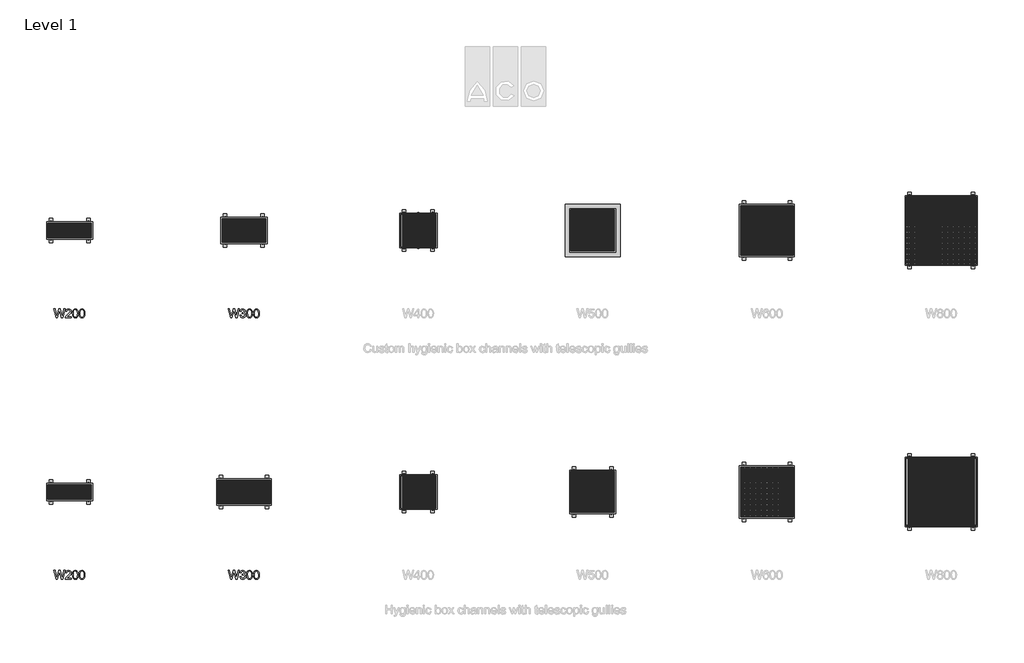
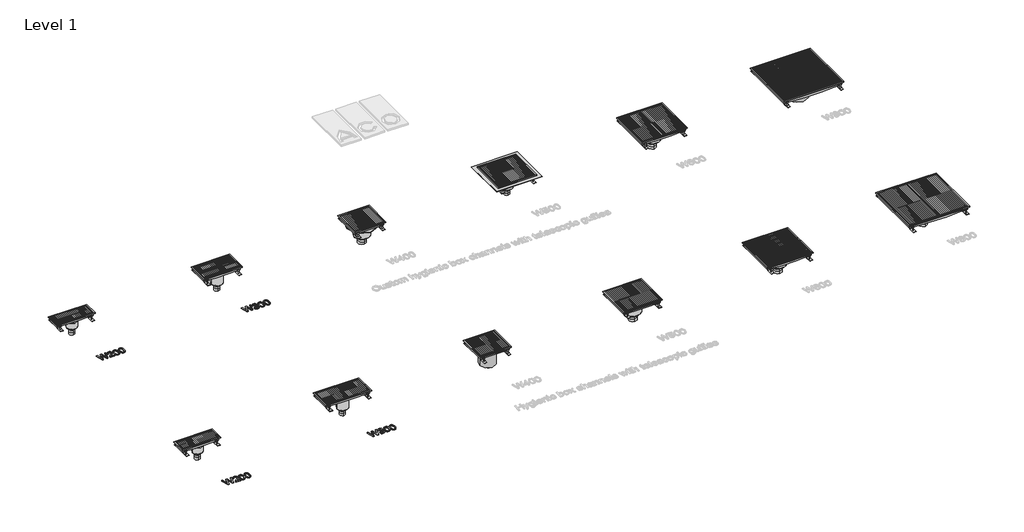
# One storey, part 1 of 4: 41 sanitary terminals, 4 proxies, 2 dampers.
"""IFC4 building model written with IfcOpenShell, lengths in millimetres."""

from ifc_helpers import new_model, si_unit, origin, origin_with_axes, place, context, project, spatial, polyline, outline, extrude, transform, mapped, element, save
from components import std_nested_2a3f0441, std_nested_5fa89a83, std_nested_e3c334fa, std_nested_92ae71c6, std_nested_1bb88c5a, std_nested_4aa36dc4, std_nested_bf99f5a6, std_nested_4a2af299, std_nested_70ec9771, std_nested_70838659, std_nested_12b8dc3f, std_nested_4702d8b9, std_nested_b8717db3, std_nested_fb4eed41, std_nested_d116548a, std_nested_70892438, std_nested_124cadb5, std_nested_95b3bbc4, std_nested_a716071c, std_nested_4be5dc4f, std_nested_37ddd1c3, std_nested_673e6eb0, std_nested_0e9dc0d2, std_nested_275415f7, std_nested_ce3d31c5

model = new_model("IFC4")

# Units and contexts
model_context = context("Model", 3, world=origin())
ifc_project = project(units=[si_unit("LENGTHUNIT", "METRE", prefix="MILLI")], contexts=[model_context])

# Site, building, storey
site = spatial("IfcSite", under=ifc_project)
building = spatial("IfcBuilding", under=site)
storey = spatial("IfcBuildingStorey", under=building, Name="Level 1", Elevation=0.0)

# Proxies
placement = place(None, origin())
element("IfcBuildingElementProxy", 1, Name="100mm ACO", ObjectType="100mm ACO", at=placement, inside=storey, context=model_context, shape_type="SweptSolid", body=[
    extrude(outline(polyline([(-4051.8518519, -6700.0), (-4078.0092593, -6800.0), (-4093.8657407, -6800.0), (-4113.744213, -6721.1516204), (-4115.7407407, -6711.9502315), (-4118.75, -6723.8136574), (-4139.6990741, -6800.0), (-4153.587963, -6800.0), (-4179.6296296, -6700.0), (-4166.3194444, -6700.0), (-4151.1863426, -6765.6828704), (-4147.3668981, -6784.6643519), (-4142.7083333, -6767.505787), (-4123.8425926, -6700.0), (-4107.494213, -6700.0), (-4093.8078704, -6750.6076389), (-4086.3715278, -6786.1111111), (-4081.25, -6764.3229167), (-4065.2199074, -6700.0), (-4051.8518519, -6700.0)])), origin_with_axes(), (0.0, 0.0, 1.0), 10.0),
    extrude(outline(polyline([(-3981.4814815, -6800.0), (-4048.1481481, -6800.0), (-4042.1875, -6784.4039352), (-4020.1678241, -6762.7893519), (-4002.4016204, -6745.4571759), (-3996.4337384, -6736.4293981), (-3994.4444444, -6727.34375), (-3999.8697917, -6714.380787), (-4013.5706019, -6709.2592593), (-4027.6041667, -6714.3663194), (-4031.8721065, -6720.7356771), (-4033.3333333, -6729.6296296), (-4046.2962963, -6728.2407407), (-4043.1568287, -6716.1385995), (-4036.1111111, -6707.2627315), (-4025.8969907, -6701.8156829), (-4013.2523148, -6700.0), (-3999.89511, -6702.0869502), (-3989.8582176, -6708.3478009), (-3983.5756655, -6717.5600405), (-3981.4814815, -6728.5011574), (-3983.2320602, -6738.4042245), (-3988.4837963, -6748.4375), (-4015.9143519, -6775.9548611), (-4031.4814815, -6790.7407407), (-3981.4814815, -6790.7407407), (-3981.4814815, -6800.0)])), origin_with_axes(), (0.0, 0.0, 1.0), 10.0),
    extrude(outline(polyline([(-3935.2141204, -6700.0), (-3920.6181279, -6703.1864873), (-3910.192419, -6712.7459491), (-3903.9369936, -6728.6783854), (-3901.8518519, -6750.9837963), (-3904.0075231, -6773.4555845), (-3910.474537, -6789.3084491), (-3920.9707755, -6798.7160012), (-3935.2141204, -6801.8518519), (-3949.7847946, -6798.6725984), (-3960.192419, -6789.134838), (-3966.4369936, -6773.2385706), (-3968.5185185, -6750.9837963), (-3966.3628472, -6728.515625), (-3959.8958333, -6712.6157407), (-3949.4140625, -6703.1539352), (-3935.2141204, -6700.0)]), holes=[polyline([(-3935.1851852, -6792.5925926), (-3926.3454861, -6790.1584201), (-3919.9652778, -6782.8559028), (-3916.1024306, -6770.0195312), (-3914.8148148, -6750.9837963), (-3917.0717593, -6726.7650463), (-3923.8859954, -6713.599537), (-3935.3298611, -6709.2592593), (-3944.1514757, -6711.7368345), (-3950.4774306, -6719.1695602), (-3954.2860243, -6732.0782697), (-3955.5555556, -6750.9837963), (-3953.2552083, -6775.0434028), (-3946.4409722, -6788.2523148), (-3935.1851852, -6792.5925926)])]), origin_with_axes(), (0.0, 0.0, 1.0), 10.0),
    extrude(outline(polyline([(-3857.4363426, -6700.0), (-3842.8403501, -6703.1864873), (-3832.4146412, -6712.7459491), (-3826.1592159, -6728.6783854), (-3824.0740741, -6750.9837963), (-3826.2297454, -6773.4555845), (-3832.6967593, -6789.3084491), (-3843.1929977, -6798.7160012), (-3857.4363426, -6801.8518519), (-3872.0070168, -6798.6725984), (-3882.4146412, -6789.134838), (-3888.6592159, -6773.2385706), (-3890.7407407, -6750.9837963), (-3888.5850694, -6728.515625), (-3882.1180556, -6712.6157407), (-3871.6362847, -6703.1539352), (-3857.4363426, -6700.0)]), holes=[polyline([(-3857.4074074, -6792.5925926), (-3848.5677083, -6790.1584201), (-3842.1875, -6782.8559028), (-3838.3246528, -6770.0195312), (-3837.037037, -6750.9837963), (-3839.2939815, -6726.7650463), (-3846.1082176, -6713.599537), (-3857.5520833, -6709.2592593), (-3866.3736979, -6711.7368345), (-3872.6996528, -6719.1695602), (-3876.5082465, -6732.0782697), (-3877.7777778, -6750.9837963), (-3875.4774306, -6775.0434028), (-3868.6631944, -6788.2523148), (-3857.4074074, -6792.5925926)])]), origin_with_axes(), (0.0, 0.0, 1.0), 10.0),
])
element("IfcBuildingElementProxy", 2, Name="100mm ACO", ObjectType="100mm ACO", at=placement, inside=storey, context=model_context, shape_type="SweptSolid", body=[
    extrude(outline(polyline([(-2051.8518519, -6700.0), (-2078.0092593, -6800.0), (-2093.8657407, -6800.0), (-2113.744213, -6721.1516204), (-2115.7407407, -6711.9502315), (-2118.75, -6723.8136574), (-2139.6990741, -6800.0), (-2153.587963, -6800.0), (-2179.6296296, -6700.0), (-2166.3194444, -6700.0), (-2151.1863426, -6765.6828704), (-2147.3668981, -6784.6643519), (-2142.7083333, -6767.505787), (-2123.8425926, -6700.0), (-2107.494213, -6700.0), (-2093.8078704, -6750.6076389), (-2086.3715278, -6786.1111111), (-2081.25, -6764.3229167), (-2065.2199074, -6700.0), (-2051.8518519, -6700.0)])), origin_with_axes(), (0.0, 0.0, 1.0), 10.0),
    extrude(outline(polyline([(-1998.8136574, -6746.3975694), (-1990.483941, -6749.6346933), (-1984.4762731, -6755.4253472), (-1979.6296296, -6770.9490741), (-1982.1542245, -6783.2573785), (-1989.7280093, -6793.1568287), (-2000.817419, -6799.6780961), (-2013.8888889, -6801.8518519), (-2026.1682581, -6799.9348958), (-2036.0966435, -6794.1840278), (-2043.0230035, -6785.2864583), (-2046.2962963, -6773.9293981), (-2033.3333333, -6772.2222222), (-2026.5046296, -6787.5144676), (-2013.4548611, -6792.5925926), (-2005.3855613, -6791.0662616), (-1998.6545139, -6786.4872685), (-1994.1080729, -6779.6947338), (-1992.5925926, -6771.5277778), (-1994.0140336, -6763.7695312), (-1998.2783565, -6757.4508102), (-2004.8357928, -6753.2515914), (-2013.1365741, -6751.8518519), (-2022.2222222, -6753.7037037), (-2020.775463, -6742.5925926), (-2012.9050926, -6742.1006944), (-2006.4236111, -6739.6990741), (-2000.4918981, -6734.2303241), (-1998.1481481, -6725.4050926), (-2002.9369213, -6713.4837963), (-2014.0335648, -6709.2592593), (-2025.7667824, -6714.0625), (-2031.4814815, -6727.7777778), (-2044.4444444, -6725.5497685), (-2040.6069155, -6714.3627025), (-2033.8975694, -6706.3802083), (-2024.9529803, -6701.5950521), (-2014.4097222, -6700.0), (-2002.9441551, -6701.8916377), (-1993.5474537, -6707.5665509), (-1987.2757523, -6715.9758391), (-1985.1851852, -6726.0706019), (-1988.5923032, -6738.1365741), (-1998.8136574, -6746.3975694)])), origin_with_axes(), (0.0, 0.0, 1.0), 10.0),
    extrude(outline(polyline([(-1935.2141204, -6700.0), (-1920.6181279, -6703.1864873), (-1910.192419, -6712.7459491), (-1903.9369936, -6728.6783854), (-1901.8518519, -6750.9837963), (-1904.0075231, -6773.4555845), (-1910.474537, -6789.3084491), (-1920.9707755, -6798.7160012), (-1935.2141204, -6801.8518519), (-1949.7847946, -6798.6725984), (-1960.192419, -6789.134838), (-1966.4369936, -6773.2385706), (-1968.5185185, -6750.9837963), (-1966.3628472, -6728.515625), (-1959.8958333, -6712.6157407), (-1949.4140625, -6703.1539352), (-1935.2141204, -6700.0)]), holes=[polyline([(-1935.1851852, -6792.5925926), (-1926.3454861, -6790.1584201), (-1919.9652778, -6782.8559028), (-1916.1024306, -6770.0195312), (-1914.8148148, -6750.9837963), (-1917.0717593, -6726.7650463), (-1923.8859954, -6713.599537), (-1935.3298611, -6709.2592593), (-1944.1514757, -6711.7368345), (-1950.4774306, -6719.1695602), (-1954.2860243, -6732.0782697), (-1955.5555556, -6750.9837963), (-1953.2552083, -6775.0434028), (-1946.4409722, -6788.2523148), (-1935.1851852, -6792.5925926)])]), origin_with_axes(), (0.0, 0.0, 1.0), 10.0),
    extrude(outline(polyline([(-1857.4363426, -6700.0), (-1842.8403501, -6703.1864873), (-1832.4146412, -6712.7459491), (-1826.1592159, -6728.6783854), (-1824.0740741, -6750.9837963), (-1826.2297454, -6773.4555845), (-1832.6967593, -6789.3084491), (-1843.1929977, -6798.7160012), (-1857.4363426, -6801.8518519), (-1872.0070168, -6798.6725984), (-1882.4146412, -6789.134838), (-1888.6592159, -6773.2385706), (-1890.7407407, -6750.9837963), (-1888.5850694, -6728.515625), (-1882.1180556, -6712.6157407), (-1871.6362847, -6703.1539352), (-1857.4363426, -6700.0)]), holes=[polyline([(-1857.4074074, -6792.5925926), (-1848.5677083, -6790.1584201), (-1842.1875, -6782.8559028), (-1838.3246528, -6770.0195312), (-1837.037037, -6750.9837963), (-1839.2939815, -6726.7650463), (-1846.1082176, -6713.599537), (-1857.5520833, -6709.2592593), (-1866.3736979, -6711.7368345), (-1872.6996528, -6719.1695602), (-1876.5082465, -6732.0782697), (-1877.7777778, -6750.9837963), (-1875.4774306, -6775.0434028), (-1868.6631944, -6788.2523148), (-1857.4074074, -6792.5925926)])]), origin_with_axes(), (0.0, 0.0, 1.0), 10.0),
])
element("IfcBuildingElementProxy", 3, Name="100mm ACO", ObjectType="100mm ACO", at=placement, inside=storey, context=model_context, shape_type="SweptSolid", body=[
    extrude(outline(polyline([(-4051.8518519, -3700.0), (-4078.0092593, -3800.0), (-4093.8657407, -3800.0), (-4113.744213, -3721.1516204), (-4115.7407407, -3711.9502315), (-4118.75, -3723.8136574), (-4139.6990741, -3800.0), (-4153.587963, -3800.0), (-4179.6296296, -3700.0), (-4166.3194444, -3700.0), (-4151.1863426, -3765.6828704), (-4147.3668981, -3784.6643519), (-4142.7083333, -3767.505787), (-4123.8425926, -3700.0), (-4107.494213, -3700.0), (-4093.8078704, -3750.6076389), (-4086.3715278, -3786.1111111), (-4081.25, -3764.3229167), (-4065.2199074, -3700.0), (-4051.8518519, -3700.0)])), origin_with_axes(), (0.0, 0.0, 1.0), 10.0),
    extrude(outline(polyline([(-3981.4814815, -3800.0), (-4048.1481481, -3800.0), (-4042.1875, -3784.4039352), (-4020.1678241, -3762.7893519), (-4002.4016204, -3745.4571759), (-3996.4337384, -3736.4293981), (-3994.4444444, -3727.34375), (-3999.8697917, -3714.380787), (-4013.5706019, -3709.2592593), (-4027.6041667, -3714.3663194), (-4031.8721065, -3720.7356771), (-4033.3333333, -3729.6296296), (-4046.2962963, -3728.2407407), (-4043.1568287, -3716.1385995), (-4036.1111111, -3707.2627315), (-4025.8969907, -3701.8156829), (-4013.2523148, -3700.0), (-3999.89511, -3702.0869502), (-3989.8582176, -3708.3478009), (-3983.5756655, -3717.5600405), (-3981.4814815, -3728.5011574), (-3983.2320602, -3738.4042245), (-3988.4837963, -3748.4375), (-4015.9143519, -3775.9548611), (-4031.4814815, -3790.7407407), (-3981.4814815, -3790.7407407), (-3981.4814815, -3800.0)])), origin_with_axes(), (0.0, 0.0, 1.0), 10.0),
    extrude(outline(polyline([(-3935.2141204, -3700.0), (-3920.6181279, -3703.1864873), (-3910.192419, -3712.7459491), (-3903.9369936, -3728.6783854), (-3901.8518519, -3750.9837963), (-3904.0075231, -3773.4555845), (-3910.474537, -3789.3084491), (-3920.9707755, -3798.7160012), (-3935.2141204, -3801.8518519), (-3949.7847946, -3798.6725984), (-3960.192419, -3789.134838), (-3966.4369936, -3773.2385706), (-3968.5185185, -3750.9837963), (-3966.3628472, -3728.515625), (-3959.8958333, -3712.6157407), (-3949.4140625, -3703.1539352), (-3935.2141204, -3700.0)]), holes=[polyline([(-3935.1851852, -3792.5925926), (-3926.3454861, -3790.1584201), (-3919.9652778, -3782.8559028), (-3916.1024306, -3770.0195312), (-3914.8148148, -3750.9837963), (-3917.0717593, -3726.7650463), (-3923.8859954, -3713.599537), (-3935.3298611, -3709.2592593), (-3944.1514757, -3711.7368345), (-3950.4774306, -3719.1695602), (-3954.2860243, -3732.0782697), (-3955.5555556, -3750.9837963), (-3953.2552083, -3775.0434028), (-3946.4409722, -3788.2523148), (-3935.1851852, -3792.5925926)])]), origin_with_axes(), (0.0, 0.0, 1.0), 10.0),
    extrude(outline(polyline([(-3857.4363426, -3700.0), (-3842.8403501, -3703.1864873), (-3832.4146412, -3712.7459491), (-3826.1592159, -3728.6783854), (-3824.0740741, -3750.9837963), (-3826.2297454, -3773.4555845), (-3832.6967593, -3789.3084491), (-3843.1929977, -3798.7160012), (-3857.4363426, -3801.8518519), (-3872.0070168, -3798.6725984), (-3882.4146412, -3789.134838), (-3888.6592159, -3773.2385706), (-3890.7407407, -3750.9837963), (-3888.5850694, -3728.515625), (-3882.1180556, -3712.6157407), (-3871.6362847, -3703.1539352), (-3857.4363426, -3700.0)]), holes=[polyline([(-3857.4074074, -3792.5925926), (-3848.5677083, -3790.1584201), (-3842.1875, -3782.8559028), (-3838.3246528, -3770.0195312), (-3837.037037, -3750.9837963), (-3839.2939815, -3726.7650463), (-3846.1082176, -3713.599537), (-3857.5520833, -3709.2592593), (-3866.3736979, -3711.7368345), (-3872.6996528, -3719.1695602), (-3876.5082465, -3732.0782697), (-3877.7777778, -3750.9837963), (-3875.4774306, -3775.0434028), (-3868.6631944, -3788.2523148), (-3857.4074074, -3792.5925926)])]), origin_with_axes(), (0.0, 0.0, 1.0), 10.0),
])
element("IfcBuildingElementProxy", 4, Name="100mm ACO", ObjectType="100mm ACO", at=placement, inside=storey, context=model_context, shape_type="SweptSolid", body=[
    extrude(outline(polyline([(-2051.8518519, -3700.0), (-2078.0092593, -3800.0), (-2093.8657407, -3800.0), (-2113.744213, -3721.1516204), (-2115.7407407, -3711.9502315), (-2118.75, -3723.8136574), (-2139.6990741, -3800.0), (-2153.587963, -3800.0), (-2179.6296296, -3700.0), (-2166.3194444, -3700.0), (-2151.1863426, -3765.6828704), (-2147.3668981, -3784.6643519), (-2142.7083333, -3767.505787), (-2123.8425926, -3700.0), (-2107.494213, -3700.0), (-2093.8078704, -3750.6076389), (-2086.3715278, -3786.1111111), (-2081.25, -3764.3229167), (-2065.2199074, -3700.0), (-2051.8518519, -3700.0)])), origin_with_axes(), (0.0, 0.0, 1.0), 10.0),
    extrude(outline(polyline([(-1998.8136574, -3746.3975694), (-1990.483941, -3749.6346933), (-1984.4762731, -3755.4253472), (-1979.6296296, -3770.9490741), (-1982.1542245, -3783.2573785), (-1989.7280093, -3793.1568287), (-2000.817419, -3799.6780961), (-2013.8888889, -3801.8518519), (-2026.1682581, -3799.9348958), (-2036.0966435, -3794.1840278), (-2043.0230035, -3785.2864583), (-2046.2962963, -3773.9293981), (-2033.3333333, -3772.2222222), (-2026.5046296, -3787.5144676), (-2013.4548611, -3792.5925926), (-2005.3855613, -3791.0662616), (-1998.6545139, -3786.4872685), (-1994.1080729, -3779.6947338), (-1992.5925926, -3771.5277778), (-1994.0140336, -3763.7695312), (-1998.2783565, -3757.4508102), (-2004.8357928, -3753.2515914), (-2013.1365741, -3751.8518519), (-2022.2222222, -3753.7037037), (-2020.775463, -3742.5925926), (-2012.9050926, -3742.1006944), (-2006.4236111, -3739.6990741), (-2000.4918981, -3734.2303241), (-1998.1481481, -3725.4050926), (-2002.9369213, -3713.4837963), (-2014.0335648, -3709.2592593), (-2025.7667824, -3714.0625), (-2031.4814815, -3727.7777778), (-2044.4444444, -3725.5497685), (-2040.6069155, -3714.3627025), (-2033.8975694, -3706.3802083), (-2024.9529803, -3701.5950521), (-2014.4097222, -3700.0), (-2002.9441551, -3701.8916377), (-1993.5474537, -3707.5665509), (-1987.2757523, -3715.9758391), (-1985.1851852, -3726.0706019), (-1988.5923032, -3738.1365741), (-1998.8136574, -3746.3975694)])), origin_with_axes(), (0.0, 0.0, 1.0), 10.0),
    extrude(outline(polyline([(-1935.2141204, -3700.0), (-1920.6181279, -3703.1864873), (-1910.192419, -3712.7459491), (-1903.9369936, -3728.6783854), (-1901.8518519, -3750.9837963), (-1904.0075231, -3773.4555845), (-1910.474537, -3789.3084491), (-1920.9707755, -3798.7160012), (-1935.2141204, -3801.8518519), (-1949.7847946, -3798.6725984), (-1960.192419, -3789.134838), (-1966.4369936, -3773.2385706), (-1968.5185185, -3750.9837963), (-1966.3628472, -3728.515625), (-1959.8958333, -3712.6157407), (-1949.4140625, -3703.1539352), (-1935.2141204, -3700.0)]), holes=[polyline([(-1935.1851852, -3792.5925926), (-1926.3454861, -3790.1584201), (-1919.9652778, -3782.8559028), (-1916.1024306, -3770.0195312), (-1914.8148148, -3750.9837963), (-1917.0717593, -3726.7650463), (-1923.8859954, -3713.599537), (-1935.3298611, -3709.2592593), (-1944.1514757, -3711.7368345), (-1950.4774306, -3719.1695602), (-1954.2860243, -3732.0782697), (-1955.5555556, -3750.9837963), (-1953.2552083, -3775.0434028), (-1946.4409722, -3788.2523148), (-1935.1851852, -3792.5925926)])]), origin_with_axes(), (0.0, 0.0, 1.0), 10.0),
    extrude(outline(polyline([(-1857.4363426, -3700.0), (-1842.8403501, -3703.1864873), (-1832.4146412, -3712.7459491), (-1826.1592159, -3728.6783854), (-1824.0740741, -3750.9837963), (-1826.2297454, -3773.4555845), (-1832.6967593, -3789.3084491), (-1843.1929977, -3798.7160012), (-1857.4363426, -3801.8518519), (-1872.0070168, -3798.6725984), (-1882.4146412, -3789.134838), (-1888.6592159, -3773.2385706), (-1890.7407407, -3750.9837963), (-1888.5850694, -3728.515625), (-1882.1180556, -3712.6157407), (-1871.6362847, -3703.1539352), (-1857.4363426, -3700.0)]), holes=[polyline([(-1857.4074074, -3792.5925926), (-1848.5677083, -3790.1584201), (-1842.1875, -3782.8559028), (-1838.3246528, -3770.0195312), (-1837.037037, -3750.9837963), (-1839.2939815, -3726.7650463), (-1846.1082176, -3713.599537), (-1857.5520833, -3709.2592593), (-1866.3736979, -3711.7368345), (-1872.6996528, -3719.1695602), (-1876.5082465, -3732.0782697), (-1877.7777778, -3750.9837963), (-1875.4774306, -3775.0434028), (-1868.6631944, -3788.2523148), (-1857.4074074, -3792.5925926)])]), origin_with_axes(), (0.0, 0.0, 1.0), 10.0),
])

# Dampers
std_nested_shape = std_nested_2a3f0441(model_context)
element("IfcDamper", 5, ObjectType="ZZZ_do_not_use_PIA_GEN_UN_fire resistant kit for hygienic gullies_ACO : std (nested)", at=placement, inside=storey, context=model_context, shape_type="MappedRepresentation", body=[
    mapped(std_nested_shape, transform((6000.0, -2800.0, -91.0), x_axis=(-1.0, 0.0, 0.0), y_axis=(0.0, -1.0, 0.0), z_axis=(0.0, 0.0, 1.0))),
])
std_nested_2_shape = std_nested_5fa89a83(model_context)
element("IfcDamper", 6, ObjectType="ZZZ_do_not_use_PIA_GEN_UN_fire resistant kit for hygienic gullies_ACO : std (nested)", at=placement, inside=storey, context=model_context, shape_type="MappedRepresentation", body=[
    mapped(std_nested_2_shape, transform((0.0, -5800.0, -71.0), x_axis=(-1.0, 0.0, 0.0), y_axis=(0.0, -1.0, 0.0), z_axis=(0.0, 0.0, 1.0))),
])

# Sanitary terminals
std_nested_3_shape = std_nested_e3c334fa(model_context)
element("IfcSanitaryTerminal", 7, ObjectType="ZZZ_do not use_PF_ST_UN_hygienic box channel_ACO : std (nested)", at=placement, inside=storey, context=model_context, shape_type="MappedRepresentation", body=[
    mapped(std_nested_3_shape, transform((-4000.0, -5800.0, 0.0), x_axis=(1.0, 0.0, 0.0), y_axis=(0.0, 1.0, 0.0), z_axis=(0.0, 0.0, 1.0))),
])
std_nested_4_shape = std_nested_92ae71c6(model_context)
element("IfcSanitaryTerminal", 8, ObjectType="ZZZ_do not use_PF_ST_UN_hygienic box channel_ACO : std (nested)", at=placement, inside=storey, context=model_context, shape_type="MappedRepresentation", body=[
    mapped(std_nested_4_shape, transform((0.0, -5800.0, 0.0), x_axis=(1.0, 0.0, 0.0), y_axis=(0.0, 1.0, 0.0), z_axis=(0.0, 0.0, 1.0))),
])
std_nested_5_shape = std_nested_1bb88c5a(model_context)
element("IfcSanitaryTerminal", 9, ObjectType="ZZZ_do not use_PF_ST_UN_hygienic box channel_ACO : std (nested)", at=placement, inside=storey, context=model_context, shape_type="MappedRepresentation", body=[
    mapped(std_nested_5_shape, transform((-2000.0, -5800.0, 0.0), x_axis=(1.0, 0.0, 0.0), y_axis=(0.0, 1.0, 0.0), z_axis=(0.0, 0.0, 1.0))),
])
std_nested_6_shape = std_nested_4aa36dc4(model_context)
element("IfcSanitaryTerminal", 10, ObjectType="ZZZ_do not use_PF_ST_UN_hygienic box channel_ACO : std (nested)", at=placement, inside=storey, context=model_context, shape_type="MappedRepresentation", body=[
    mapped(std_nested_6_shape, transform((4000.0, -5800.0, 0.0), x_axis=(1.0, 0.0, 0.0), y_axis=(0.0, 1.0, 0.0), z_axis=(0.0, 0.0, 1.0))),
])
std_nested_7_shape = std_nested_bf99f5a6(model_context)
element("IfcSanitaryTerminal", 11, ObjectType="ZZZ_do not use_PF_ST_UN_hygienic box channel_ACO : std (nested)", at=placement, inside=storey, context=model_context, shape_type="MappedRepresentation", body=[
    mapped(std_nested_7_shape, transform((2000.0, -5800.0, 0.0), x_axis=(1.0, 0.0, 0.0), y_axis=(0.0, 1.0, 0.0), z_axis=(0.0, 0.0, 1.0))),
])
std_nested_8_shape = std_nested_4a2af299(model_context)
element("IfcSanitaryTerminal", 12, ObjectType="ZZZ_do not use_PF_ST_UN_hygienic box channel_ACO : std (nested)", at=placement, inside=storey, context=model_context, shape_type="MappedRepresentation", body=[
    mapped(std_nested_8_shape, transform((6000.0, -5800.0, 0.0), x_axis=(1.0, 0.0, 0.0), y_axis=(0.0, 1.0, 0.0), z_axis=(0.0, 0.0, 1.0))),
])
std_nested_9_shape = std_nested_70ec9771(model_context)
element("IfcSanitaryTerminal", 13, ObjectType="ZZZ_do not use_PF_ST_UN_telescopic hygienic gully_ACO : std (nested)", at=placement, inside=storey, context=model_context, shape_type="MappedRepresentation", body=[
    mapped(std_nested_9_shape, transform((-2000.0, -2800.0, -69.5), x_axis=(-1.0, 0.0, 0.0), y_axis=(0.0, -1.0, 0.0), z_axis=(0.0, 0.0, 1.0))),
])
element("IfcSanitaryTerminal", 14, ObjectType="ZZZ_do not use_PF_ST_UN_custom hygienic box channel_ACO : std (nested)", at=placement, inside=storey, context=model_context, shape_type="MappedRepresentation", body=[
    mapped(std_nested_3_shape, transform((-4000.0, -2800.0, 0.0), x_axis=(1.0, 0.0, 0.0), y_axis=(0.0, 1.0, 0.0), z_axis=(0.0, 0.0, 1.0))),
])
std_nested_10_shape = std_nested_70838659(model_context)
element("IfcSanitaryTerminal", 15, ObjectType="ZZZ_do not use_PF_ST_UN_custom hygienic box channel_ACO : std (nested)", at=placement, inside=storey, context=model_context, shape_type="MappedRepresentation", body=[
    mapped(std_nested_10_shape, transform((-2000.0, -2800.0, 0.0), x_axis=(1.0, 0.0, 0.0), y_axis=(0.0, 1.0, 0.0), z_axis=(0.0, 0.0, 1.0))),
])
std_nested_11_shape = std_nested_12b8dc3f(model_context)
element("IfcSanitaryTerminal", 16, ObjectType="ZZZ_do not use_PF_ST_UN_custom hygienic box channel_ACO : std (nested)", at=placement, inside=storey, context=model_context, shape_type="MappedRepresentation", body=[
    mapped(std_nested_11_shape, transform((0.0, -2800.0, 0.0), x_axis=(1.0, 0.0, 0.0), y_axis=(0.0, 1.0, 0.0), z_axis=(0.0, 0.0, 1.0))),
])
std_nested_12_shape = std_nested_4702d8b9(model_context)
element("IfcSanitaryTerminal", 17, ObjectType="ZZZ_do not use_PF_ST_UN_custom hygienic box channel_ACO : std (nested)", at=placement, inside=storey, context=model_context, shape_type="MappedRepresentation", body=[
    mapped(std_nested_12_shape, transform((2000.0, -2800.0, 0.0), x_axis=(1.0, 0.0, 0.0), y_axis=(0.0, 1.0, 0.0), z_axis=(0.0, 0.0, 1.0))),
])
element("IfcSanitaryTerminal", 18, ObjectType="ZZZ_do not use_PF_ST_UN_custom hygienic box channel_ACO : std (nested)", at=placement, inside=storey, context=model_context, shape_type="MappedRepresentation", body=[
    mapped(std_nested_6_shape, transform((4000.0, -2800.0, 0.0), x_axis=(1.0, 0.0, 0.0), y_axis=(0.0, 1.0, 0.0), z_axis=(0.0, 0.0, 1.0))),
])
element("IfcSanitaryTerminal", 19, ObjectType="ZZZ_do not use_PF_ST_UN_custom hygienic box channel_ACO : std (nested)", at=placement, inside=storey, context=model_context, shape_type="MappedRepresentation", body=[
    mapped(std_nested_8_shape, transform((6000.0, -2800.0, 0.0), x_axis=(1.0, 0.0, 0.0), y_axis=(0.0, 1.0, 0.0), z_axis=(0.0, 0.0, 1.0))),
])
std_nested_13_shape = std_nested_b8717db3(model_context)
element("IfcSanitaryTerminal", 20, ObjectType="ZZZ_do not use_PF_ST_UN_telescopic hygienic gully_ACO : std (nested)", at=placement, inside=storey, context=model_context, shape_type="MappedRepresentation", body=[
    mapped(std_nested_13_shape, transform((-4000.0, -2800.0, -69.5), x_axis=(-1.0, 0.0, 0.0), y_axis=(0.0, -1.0, 0.0), z_axis=(0.0, 0.0, 1.0))),
])
element("IfcSanitaryTerminal", 21, ObjectType="ZZZ_do not use_PF_ST_UN_telescopic hygienic gully_ACO : std (nested)", at=placement, inside=storey, context=model_context, shape_type="MappedRepresentation", body=[
    mapped(std_nested_13_shape, transform((-4000.0, -5800.0, -69.5), x_axis=(-1.0, 0.0, 0.0), y_axis=(0.0, -1.0, 0.0), z_axis=(0.0, 0.0, 1.0))),
])
element("IfcSanitaryTerminal", 22, ObjectType="ZZZ_do not use_PF_ST_UN_telescopic hygienic gully_ACO : std (nested)", at=placement, inside=storey, context=model_context, shape_type="MappedRepresentation", body=[
    mapped(std_nested_9_shape, transform((2000.0, -2800.0, -74.5), x_axis=(-1.0, 0.0, 0.0), y_axis=(0.0, -1.0, 0.0), z_axis=(0.0, 0.0, 1.0))),
])
element("IfcSanitaryTerminal", 23, ObjectType="ZZZ_do not use_PF_ST_UN_telescopic hygienic gully_ACO : std (nested)", at=placement, inside=storey, context=model_context, shape_type="MappedRepresentation", body=[
    mapped(std_nested_9_shape, transform((-2000.0, -5800.0, -69.5), x_axis=(-1.0, 0.0, 0.0), y_axis=(0.0, -1.0, 0.0), z_axis=(0.0, 0.0, 1.0))),
])
element("IfcSanitaryTerminal", 24, ObjectType="ZZZ_do not use_PF_ST_UN_telescopic hygienic gully_ACO : std (nested)", at=placement, inside=storey, context=model_context, shape_type="MappedRepresentation", body=[
    mapped(std_nested_9_shape, transform((0.0, -5800.0, -69.5), x_axis=(-1.0, 0.0, 0.0), y_axis=(0.0, -1.0, 0.0), z_axis=(0.0, 0.0, 1.0))),
])
std_nested_14_shape = std_nested_fb4eed41(model_context)
element("IfcSanitaryTerminal", 25, ObjectType="ZZZ_do not use_PF_ST_UN_telescopic hygienic gully_ACO : std (nested)", at=placement, inside=storey, context=model_context, shape_type="MappedRepresentation", body=[
    mapped(std_nested_14_shape, transform((4000.0, -5800.0, -79.5), x_axis=(-1.0, 0.0, 0.0), y_axis=(0.0, -1.0, 0.0), z_axis=(0.0, 0.0, 1.0))),
])
std_nested_15_shape = std_nested_d116548a(model_context)
element("IfcSanitaryTerminal", 26, ObjectType="ZZZ_do not use_PF_ST_UN_telescopic hygienic gully_ACO : std (nested)", at=placement, inside=storey, context=model_context, shape_type="MappedRepresentation", body=[
    mapped(std_nested_15_shape, transform((2000.0, -5800.0, -76.0), x_axis=(-1.0, 0.0, 0.0), y_axis=(0.0, -1.0, 0.0), z_axis=(0.0, 0.0, 1.0))),
])
std_nested_16_shape = std_nested_70892438(model_context)
element("IfcSanitaryTerminal", 27, ObjectType="ZZZ_do not use_PF_ST_UN_telescopic hygienic gully_ACO : std (nested)", at=placement, inside=storey, context=model_context, shape_type="MappedRepresentation", body=[
    mapped(std_nested_16_shape, transform((6000.0, -5800.0, -89.5), x_axis=(-1.0, 0.0, 0.0), y_axis=(0.0, -1.0, 0.0), z_axis=(0.0, 0.0, 1.0))),
])
element("IfcSanitaryTerminal", 28, ObjectType="ZZZ_do not use_PF_ST_UN_telescopic hygienic gully_ACO : std (nested)", at=placement, inside=storey, context=model_context, shape_type="MappedRepresentation", body=[
    mapped(std_nested_16_shape, transform((0.0, -2800.0, -69.5), x_axis=(-1.0, 0.0, 0.0), y_axis=(0.0, -1.0, 0.0), z_axis=(0.0, 0.0, 1.0))),
])
element("IfcSanitaryTerminal", 29, ObjectType="ZZZ_do not use_PF_ST_UN_telescopic hygienic gully_ACO : std (nested)", at=placement, inside=storey, context=model_context, shape_type="MappedRepresentation", body=[
    mapped(std_nested_15_shape, transform((4000.0, -2800.0, -79.5), x_axis=(-1.0, 0.0, 0.0), y_axis=(0.0, -1.0, 0.0), z_axis=(0.0, 0.0, 1.0))),
])
element("IfcSanitaryTerminal", 30, ObjectType="ZZZ_do not use_PF_ST_UN_telescopic hygienic gully_ACO : std (nested)", at=placement, inside=storey, context=model_context, shape_type="MappedRepresentation", body=[
    mapped(std_nested_15_shape, transform((6000.0, -2800.0, -89.5), x_axis=(-1.0, 0.0, 0.0), y_axis=(0.0, -1.0, 0.0), z_axis=(0.0, 0.0, 1.0))),
])
std_nested_17_shape = std_nested_124cadb5(model_context)
element("IfcSanitaryTerminal", 31, ObjectType="ZZZ_do not use_PF_ST_UN_grating for box channel_ACO : std (nested)", at=placement, inside=storey, context=model_context, shape_type="MappedRepresentation", body=[
    mapped(std_nested_17_shape, transform((-4000.0, -2800.0, 0.0), x_axis=(1.0, 0.0, 0.0), y_axis=(0.0, 1.0, 0.0), z_axis=(0.0, 0.0, 1.0))),
])
element("IfcSanitaryTerminal", 32, ObjectType="ZZZ_do not use_PF_ST_UN_grating for box channel_ACO : std (nested)", at=placement, inside=storey, context=model_context, shape_type="MappedRepresentation", body=[
    mapped(std_nested_17_shape, transform((-4000.0, -5800.0, 0.0), x_axis=(1.0, 0.0, 0.0), y_axis=(0.0, 1.0, 0.0), z_axis=(0.0, 0.0, 1.0))),
])
std_nested_18_shape = std_nested_95b3bbc4(model_context)
element("IfcSanitaryTerminal", 33, ObjectType="ZZZ_do not use_PF_ST_UN_grating for box channel_ACO : std (nested)", at=placement, inside=storey, context=model_context, shape_type="MappedRepresentation", body=[
    mapped(std_nested_18_shape, transform((-2000.0, -2800.0, 0.0), x_axis=(1.0, 0.0, 0.0), y_axis=(0.0, 1.0, 0.0), z_axis=(0.0, 0.0, 1.0))),
])
std_nested_19_shape = std_nested_a716071c(model_context)
element("IfcSanitaryTerminal", 34, ObjectType="ZZZ_do not use_PF_ST_UN_grating for box channel_ACO : std (nested)", at=placement, inside=storey, context=model_context, shape_type="MappedRepresentation", body=[
    mapped(std_nested_19_shape, transform((0.0, -2800.0, 0.0), x_axis=(1.0, 0.0, 0.0), y_axis=(0.0, 1.0, 0.0), z_axis=(0.0, 0.0, 1.0))),
])
element("IfcSanitaryTerminal", 35, ObjectType="ZZZ_do not use_PF_ST_UN_grating for box channel_ACO : std (nested)", at=placement, inside=storey, context=model_context, shape_type="MappedRepresentation", body=[
    mapped(std_nested_19_shape, transform((0.0, -5800.0, 0.0), x_axis=(1.0, 0.0, 0.0), y_axis=(0.0, 1.0, 0.0), z_axis=(0.0, 0.0, 1.0))),
])
std_nested_20_shape = std_nested_4be5dc4f(model_context)
element("IfcSanitaryTerminal", 36, ObjectType="ZZZ_do not use_PF_ST_UN_grating for box channel_ACO : std (nested)", at=placement, inside=storey, context=model_context, shape_type="MappedRepresentation", body=[
    mapped(std_nested_20_shape, transform((2000.0, -2800.0, 0.0), x_axis=(1.0, 0.0, 0.0), y_axis=(0.0, 1.0, 0.0), z_axis=(0.0, 0.0, 1.0))),
])
std_nested_21_shape = std_nested_37ddd1c3(model_context)
element("IfcSanitaryTerminal", 37, ObjectType="ZZZ_do not use_PF_ST_UN_grating for box channel_ACO : std (nested)", at=placement, inside=storey, context=model_context, shape_type="MappedRepresentation", body=[
    mapped(std_nested_21_shape, transform((3850.0, -2800.0, 0.0), x_axis=(1.0, 0.0, 0.0), y_axis=(0.0, 1.0, 0.0), z_axis=(0.0, 0.0, 1.0))),
])
element("IfcSanitaryTerminal", 38, ObjectType="ZZZ_do not use_PF_ST_UN_grating for box channel_ACO : std (nested)", at=placement, inside=storey, context=model_context, shape_type="MappedRepresentation", body=[
    mapped(std_nested_21_shape, transform((4150.0, -2800.0, 0.0), x_axis=(1.0, 0.0, 0.0), y_axis=(0.0, 1.0, 0.0), z_axis=(0.0, 0.0, 1.0))),
])
std_nested_22_shape = std_nested_673e6eb0(model_context)
element("IfcSanitaryTerminal", 39, ObjectType="ZZZ_do not use_PF_ST_UN_grating for box channel_ACO : std (nested)", at=placement, inside=storey, context=model_context, shape_type="MappedRepresentation", body=[
    mapped(std_nested_22_shape, transform((5800.0, -2800.0, 0.0), x_axis=(1.0, 0.0, 0.0), y_axis=(0.0, 1.0, 0.0), z_axis=(0.0, 0.0, 1.0))),
])
element("IfcSanitaryTerminal", 40, ObjectType="ZZZ_do not use_PF_ST_UN_grating for box channel_ACO : std (nested)", at=placement, inside=storey, context=model_context, shape_type="MappedRepresentation", body=[
    mapped(std_nested_22_shape, transform((6200.0, -2800.0, 0.0), x_axis=(1.0, 0.0, 0.0), y_axis=(0.0, 1.0, 0.0), z_axis=(0.0, 0.0, 1.0))),
])
std_nested_23_shape = std_nested_0e9dc0d2(model_context)
element("IfcSanitaryTerminal", 41, ObjectType="ZZZ_do not use_PF_ST_UN_grating for box channel_ACO : std (nested)", at=placement, inside=storey, context=model_context, shape_type="MappedRepresentation", body=[
    mapped(std_nested_23_shape, transform((-2150.0, -5800.0, 0.0), x_axis=(1.0, 0.0, 0.0), y_axis=(0.0, 1.0, 0.0), z_axis=(0.0, 0.0, 1.0))),
])
element("IfcSanitaryTerminal", 42, ObjectType="ZZZ_do not use_PF_ST_UN_grating for box channel_ACO : std (nested)", at=placement, inside=storey, context=model_context, shape_type="MappedRepresentation", body=[
    mapped(std_nested_23_shape, transform((-1850.0, -5800.0, 0.0), x_axis=(1.0, 0.0, 0.0), y_axis=(0.0, 1.0, 0.0), z_axis=(0.0, 0.0, 1.0))),
])
element("IfcSanitaryTerminal", 43, ObjectType="ZZZ_do not use_PF_ST_UN_grating for box channel_ACO : std (nested)", at=placement, inside=storey, context=model_context, shape_type="MappedRepresentation", body=[
    mapped(std_nested_20_shape, transform((2000.0, -5800.0, 0.0), x_axis=(1.0, 0.0, 0.0), y_axis=(0.0, 1.0, 0.0), z_axis=(0.0, 0.0, 1.0))),
])
std_nested_24_shape = std_nested_275415f7(model_context)
element("IfcSanitaryTerminal", 44, ObjectType="ZZZ_do not use_PF_ST_UN_grating for box channel_ACO : std (nested)", at=placement, inside=storey, context=model_context, shape_type="MappedRepresentation", body=[
    mapped(std_nested_24_shape, transform((3850.0, -5800.0, 0.0), x_axis=(1.0, 0.0, 0.0), y_axis=(0.0, 1.0, 0.0), z_axis=(0.0, 0.0, 1.0))),
])
element("IfcSanitaryTerminal", 45, ObjectType="ZZZ_do not use_PF_ST_UN_grating for box channel_ACO : std (nested)", at=placement, inside=storey, context=model_context, shape_type="MappedRepresentation", body=[
    mapped(std_nested_24_shape, transform((4150.0, -5800.0, 0.0), x_axis=(1.0, 0.0, 0.0), y_axis=(0.0, 1.0, 0.0), z_axis=(0.0, 0.0, 1.0))),
])
std_nested_25_shape = std_nested_ce3d31c5(model_context)
element("IfcSanitaryTerminal", 46, ObjectType="ZZZ_do not use_PF_ST_UN_grating for box channel_ACO : std (nested)", at=placement, inside=storey, context=model_context, shape_type="MappedRepresentation", body=[
    mapped(std_nested_25_shape, transform((5800.0, -5800.0, 0.0), x_axis=(1.0, 0.0, 0.0), y_axis=(0.0, 1.0, 0.0), z_axis=(0.0, 0.0, 1.0))),
])
element("IfcSanitaryTerminal", 47, ObjectType="ZZZ_do not use_PF_ST_UN_grating for box channel_ACO : std (nested)", at=placement, inside=storey, context=model_context, shape_type="MappedRepresentation", body=[
    mapped(std_nested_25_shape, transform((6200.0, -5800.0, 0.0), x_axis=(1.0, 0.0, 0.0), y_axis=(0.0, 1.0, 0.0), z_axis=(0.0, 0.0, 1.0))),
])

save(model, "model.ifc")
